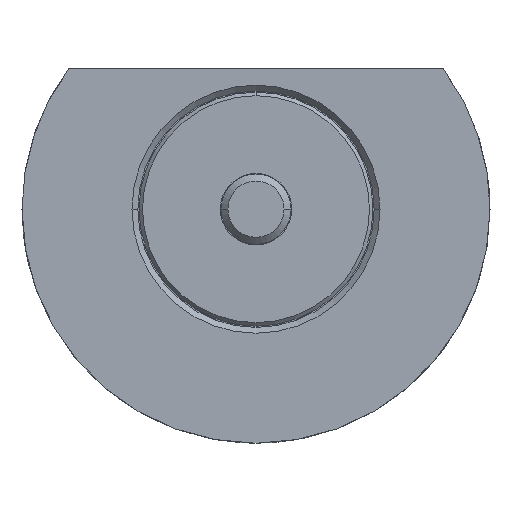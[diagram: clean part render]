
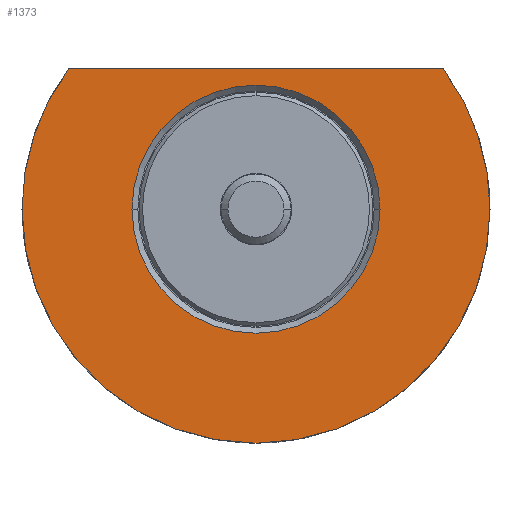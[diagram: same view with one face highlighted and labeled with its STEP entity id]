
A CAD part, front view. The second image highlights one B-rep face of the part: STEP entity #1373.
In plain terms, the highlighted planar face has unit normal (0, -1, 0).
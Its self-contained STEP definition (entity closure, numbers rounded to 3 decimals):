
#52 = DIRECTION ( 'NONE',  ( 0., 1., 0. ) ) ;
#66 = ORIENTED_EDGE ( 'NONE', *, *, #603, .T. ) ;
#86 = LINE ( 'NONE', #1068, #737 ) ;
#92 = AXIS2_PLACEMENT_3D ( 'NONE', #2496, #52, #495 ) ;
#142 = DIRECTION ( 'NONE',  ( 0., 1., 0. ) ) ;
#175 = CIRCLE ( 'NONE', #1985, 20. ) ;
#193 = AXIS2_PLACEMENT_3D ( 'NONE', #1556, #1517, #2551 ) ;
#221 = AXIS2_PLACEMENT_3D ( 'NONE', #1624, #2217, #1474 ) ;
#313 = DIRECTION ( 'NONE',  ( 0., 1., 0. ) ) ;
#455 = FACE_BOUND ( 'NONE', #1120, .T. ) ;
#495 = DIRECTION ( 'NONE',  ( -1., 0., 0. ) ) ;
#531 = CARTESIAN_POINT ( 'NONE',  ( -10.6, -10., 0. ) ) ;
#597 = EDGE_CURVE ( 'NONE', #1569, #830, #2183, .T. ) ;
#603 = EDGE_CURVE ( 'NONE', #2615, #2362, #2135, .T. ) ;
#726 = CARTESIAN_POINT ( 'NONE',  ( -20., -10., 0. ) ) ;
#737 = VECTOR ( 'NONE', #1094, 1000. ) ;
#762 = EDGE_CURVE ( 'NONE', #1796, #830, #86, .T. ) ;
#830 = VERTEX_POINT ( 'NONE', #2166 ) ;
#840 = FACE_OUTER_BOUND ( 'NONE', #2387, .T. ) ;
#929 = CARTESIAN_POINT ( 'NONE',  ( 0., -10., 0. ) ) ;
#944 = DIRECTION ( 'NONE',  ( -1., 0., 0. ) ) ;
#966 = ORIENTED_EDGE ( 'NONE', *, *, #2445, .T. ) ;
#1068 = CARTESIAN_POINT ( 'NONE',  ( -10.6, -10., 11.999 ) ) ;
#1094 = DIRECTION ( 'NONE',  ( -1., 0., 0. ) ) ;
#1120 = EDGE_LOOP ( 'NONE', ( #966, #66 ) ) ;
#1233 = DIRECTION ( 'NONE',  ( 0., -1., 0. ) ) ;
#1275 = AXIS2_PLACEMENT_3D ( 'NONE', #929, #142, #944 ) ;
#1343 = CIRCLE ( 'NONE', #221, 10.6 ) ;
#1373 = ADVANCED_FACE ( 'NONE', ( #455, #840 ), #2250, .T. ) ;
#1474 = DIRECTION ( 'NONE',  ( -1., 0., 0. ) ) ;
#1517 = DIRECTION ( 'NONE',  ( 0., 1., 0. ) ) ;
#1556 = CARTESIAN_POINT ( 'NONE',  ( 0., -10., 0. ) ) ;
#1569 = VERTEX_POINT ( 'NONE', #726 ) ;
#1586 = ORIENTED_EDGE ( 'NONE', *, *, #597, .F. ) ;
#1624 = CARTESIAN_POINT ( 'NONE',  ( 0., -10., 0. ) ) ;
#1707 = ORIENTED_EDGE ( 'NONE', *, *, #762, .T. ) ;
#1796 = VERTEX_POINT ( 'NONE', #2371 ) ;
#1845 = AXIS2_PLACEMENT_3D ( 'NONE', #2463, #1233, #2059 ) ;
#1862 = DIRECTION ( 'NONE',  ( -1., 0., 0. ) ) ;
#1969 = CARTESIAN_POINT ( 'NONE',  ( 20., -10., 0. ) ) ;
#1985 = AXIS2_PLACEMENT_3D ( 'NONE', #2044, #313, #1862 ) ;
#2044 = CARTESIAN_POINT ( 'NONE',  ( 0., -10., 0. ) ) ;
#2059 = DIRECTION ( 'NONE',  ( 1., 0., 0. ) ) ;
#2135 = CIRCLE ( 'NONE', #193, 10.6 ) ;
#2142 = EDGE_CURVE ( 'NONE', #1796, #2338, #175, .T. ) ;
#2166 = CARTESIAN_POINT ( 'NONE',  ( -16.001, -10., 11.999 ) ) ;
#2183 = CIRCLE ( 'NONE', #1275, 20. ) ;
#2212 = EDGE_CURVE ( 'NONE', #2338, #1569, #2286, .T. ) ;
#2217 = DIRECTION ( 'NONE',  ( 0., 1., 0. ) ) ;
#2250 = PLANE ( 'NONE',  #1845 ) ;
#2286 = CIRCLE ( 'NONE', #92, 20. ) ;
#2338 = VERTEX_POINT ( 'NONE', #1969 ) ;
#2362 = VERTEX_POINT ( 'NONE', #2537 ) ;
#2371 = CARTESIAN_POINT ( 'NONE',  ( 16.001, -10., 11.999 ) ) ;
#2372 = ORIENTED_EDGE ( 'NONE', *, *, #2142, .F. ) ;
#2381 = ORIENTED_EDGE ( 'NONE', *, *, #2212, .F. ) ;
#2387 = EDGE_LOOP ( 'NONE', ( #2372, #1707, #1586, #2381 ) ) ;
#2445 = EDGE_CURVE ( 'NONE', #2362, #2615, #1343, .T. ) ;
#2463 = CARTESIAN_POINT ( 'NONE',  ( -10.6, -10., 0. ) ) ;
#2496 = CARTESIAN_POINT ( 'NONE',  ( 0., -10., 0. ) ) ;
#2537 = CARTESIAN_POINT ( 'NONE',  ( 10.6, -10., 0. ) ) ;
#2551 = DIRECTION ( 'NONE',  ( -1., 0., 0. ) ) ;
#2615 = VERTEX_POINT ( 'NONE', #531 ) ;
